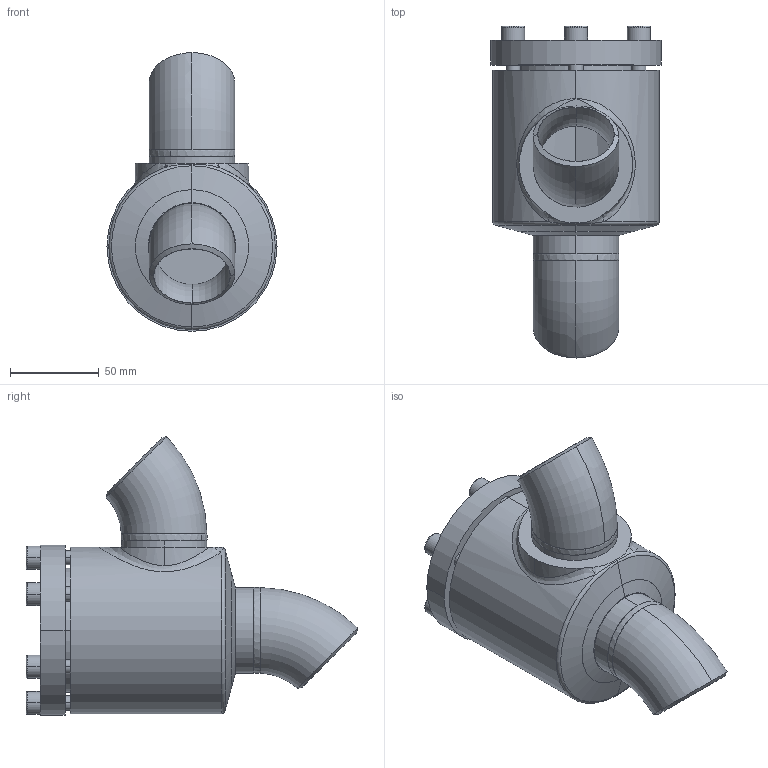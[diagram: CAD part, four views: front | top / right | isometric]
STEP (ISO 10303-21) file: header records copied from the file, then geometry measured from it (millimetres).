
FILE_DESCRIPTION (( 'STEP AP214' ), '1' );
FILE_NAME ('SS52300D14-DN040_R1_PS40.STEP', '2006-05-02T05:43:35', ( 'Herr Grams' ), ( 'AWP GmbH' ), 'SwSTEP 2.0', 'SolidWorks 2002296', '' );
FILE_SCHEMA (( 'AUTOMOTIVE_DESIGN' ));
Length unit declared in the file: millimetre
Products named in the file (9): SS52300D14-DN040_R1_PS40; Gehäuse-kpl16300-DN040_R1_Standard; Rohrbogen 45°_R1-Fase_Rohrbogen-DN040-45°; Gehäuse16300-DN040_Standard; bead16300-Geh-040-1_Standard; bead16300-Geh-040-2_Standard; SS52300E15_Deck+Schr-DN40-50_Standard; Deckel52300E15-DN40-50_Standard; Zylinderschraube-DIN912_M 8x 25
Assembly tree (14 placements, depth 3):
  SS52300D14-DN040_R1_PS40
    SS52300E15_Deck+Schr-DN40-50_Standard
      Zylinderschraube-DIN912_M 8x 25  x6
      Deckel52300E15-DN40-50_Standard
    Gehäuse-kpl16300-DN040_R1_Standard
      Rohrbogen 45°_R1-Fase_Rohrbogen-DN040-45°  x2
      bead16300-Geh-040-1_Standard
      Gehäuse16300-DN040_Standard
      bead16300-Geh-040-2_Standard
Bounding box: 96 x 187.38 x 157.38 mm (x, y, z)
Volume: 452838.1 mm3; surface area: 122177.1 mm2
Topology: 12 solids, 12 shells, 205 faces, 461 edges, 293 vertices
Faces by surface type: plane 75, cylinder 59, cone 38, torus 22, bspline 11
Entity records: 31309 total; most frequent: CARTESIAN_POINT 28350, DIRECTION 520, ORIENTED_EDGE 498, EDGE_CURVE 249, AXIS2_PLACEMENT_3D 220, VERTEX_POINT 159, EDGE_LOOP 130, CIRCLE 107
